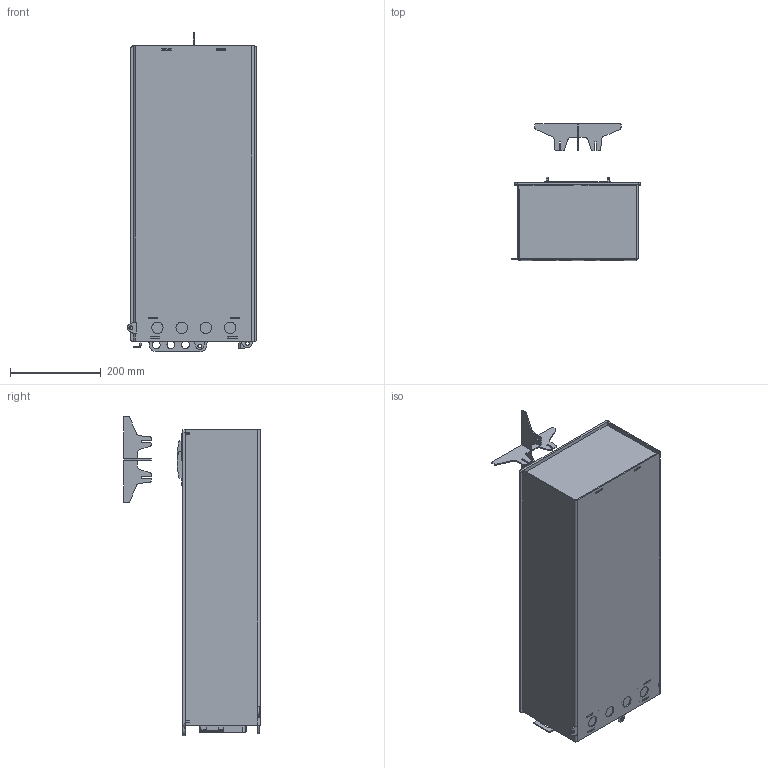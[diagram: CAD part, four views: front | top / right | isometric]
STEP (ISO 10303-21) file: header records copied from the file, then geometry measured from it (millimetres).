
FILE_DESCRIPTION((''),'2;1');
FILE_NAME('288080_ASM','2022-12-08T15:15:09',('vmorco'),(''),'CREO PARAMETRIC BY PTC INC, 2020454','CREO PARAMETRIC BY PTC INC, 2020454','');
FILE_SCHEMA(('AUTOMOTIVE_DESIGN { 1 0 10303 214 1 1 1 1 }'));
Length unit declared in the file: millimetre
Products named in the file (13): 288084; 284985; 288081; 288087; 284989; 284996; 288082; 288083; 285327; 285328; 288086; 288085; 288080_ASM
Assembly tree (14 placements, depth 2):
  288080_ASM
    288084
    284985
    288081
    288087
    284989  x2
    284996
    288082
    288083  x2
    285327
    285328
    288086
    288085
Bounding box: 284.87 x 300 x 702 mm (x, y, z)
Volume: 2152724.7 mm3; surface area: 1408891.5 mm2
Topology: 14 solids, 14 shells, 616 faces, 1764 edges, 1172 vertices
Faces by surface type: plane 344, cylinder 272
Entity records: 21991 total; most frequent: CARTESIAN_POINT 3386, DIRECTION 3360, ORIENTED_EDGE 3300, EDGE_CURVE 1650, VECTOR 1142, LINE 1142, AXIS2_PLACEMENT_3D 1109, VERTEX_POINT 1096
